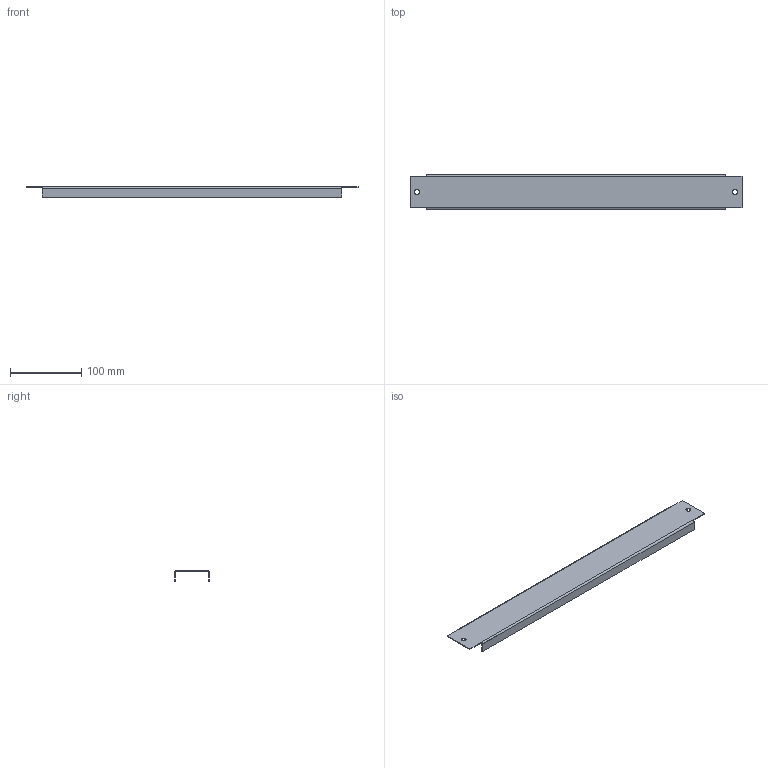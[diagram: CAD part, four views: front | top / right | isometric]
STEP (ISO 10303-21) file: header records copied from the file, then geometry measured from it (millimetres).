
FILE_DESCRIPTION (( 'STEP AP203' ), '1' );
FILE_NAME ('MB 05.50 Ïàíåëü ìîäóëüíàÿ.STEP', '2012-11-21T07:08:04', ( 'system' ), ( '' ), 'SwSTEP 2.0', 'SolidWorks 2012', '' );
FILE_SCHEMA (( 'CONFIG_CONTROL_DESIGN' ));
Length unit declared in the file: millimetre
Products named in the file (1): MB 05.50 Ïàíåëü ìîäóëüíàÿ
Bounding box: 465 x 49 x 15 mm (x, y, z)
Volume: 40085.1 mm3; surface area: 68157.4 mm2
Topology: 1 solids, 1 shells, 30 faces, 68 edges, 40 vertices
Faces by surface type: plane 22, cylinder 8
Entity records: 905 total; most frequent: DIRECTION 146, CARTESIAN_POINT 139, ORIENTED_EDGE 136, EDGE_CURVE 68, VECTOR 52, LINE 52, AXIS2_PLACEMENT_3D 47, VERTEX_POINT 40
